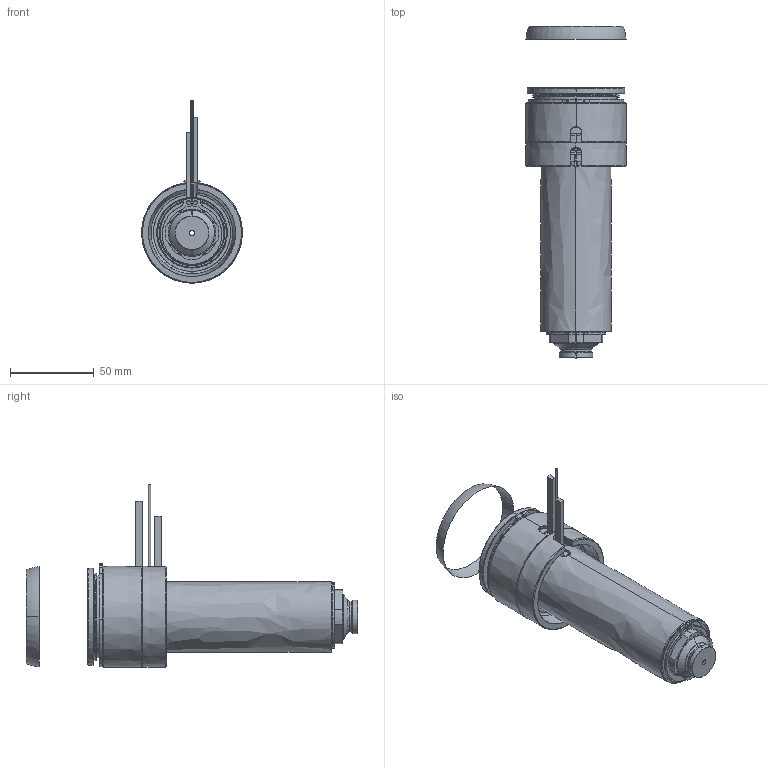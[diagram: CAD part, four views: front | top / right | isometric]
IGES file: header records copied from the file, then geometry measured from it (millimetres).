
Start section: SolidWorks IGES file using analytic representation for surfaces
Global section: file name: C:\Documents and Settings\ws-20\Desktop\TEM\UGER6605-S-A-1 [Øb-2.9 P-0 ØC-15].IGS; native system: SolidWorks 2012; preprocessor: SolidWorks 2012; author: ws-20; date: 120417.120051; units: millimetre
Bounding box: 60 x 197.77 x 108.65 mm (x, y, z)
Surface area: 85115.4 mm2 (no closed solid volume)
Topology: 0 solids, 0 shells, 161 faces, 3086 edges, 3086 vertices
Faces by surface type: revolution 100, bspline 61
